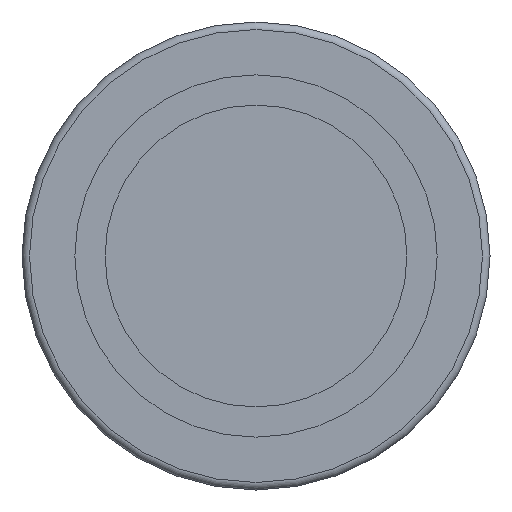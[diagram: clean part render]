
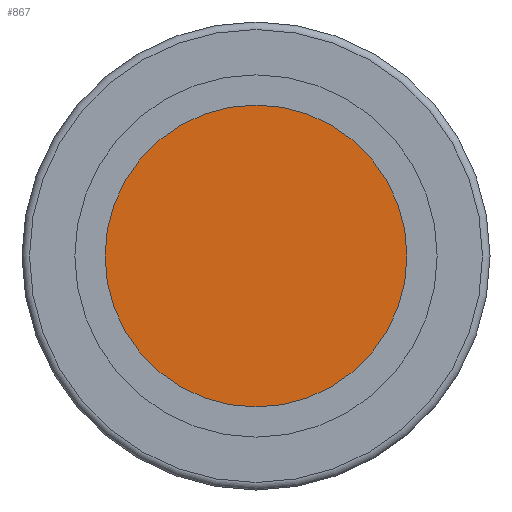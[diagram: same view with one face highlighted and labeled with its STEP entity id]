
A CAD part, left-side view. The second image highlights one B-rep face of the part: STEP entity #867.
In plain terms, the highlighted planar face has unit normal (-1, 0, 0).
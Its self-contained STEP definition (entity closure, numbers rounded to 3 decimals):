
#416=ORIENTED_EDGE('',*,*,#535,.F.);
#535=EDGE_CURVE('',#607,#607,#663,.T.);
#607=VERTEX_POINT('',#1670);
#663=CIRCLE('',#982,2.);
#730=EDGE_LOOP('',(#416));
#796=FACE_BOUND('',#730,.T.);
#809=PLANE('',#986);
#867=ADVANCED_FACE('',(#796),#809,.F.);
#982=AXIS2_PLACEMENT_3D('',#1669,#1239,#1240);
#986=AXIS2_PLACEMENT_3D('',#1675,#1247,#1248);
#1239=DIRECTION('',(1.,0.,0.));
#1240=DIRECTION('',(0.,-1.,0.));
#1247=DIRECTION('',(1.,0.,0.));
#1248=DIRECTION('',(0.,0.,-1.));
#1669=CARTESIAN_POINT('',(-0.8,0.,0.));
#1670=CARTESIAN_POINT('',(-0.8,-2.,0.));
#1675=CARTESIAN_POINT('',(-0.8,0.,0.));
